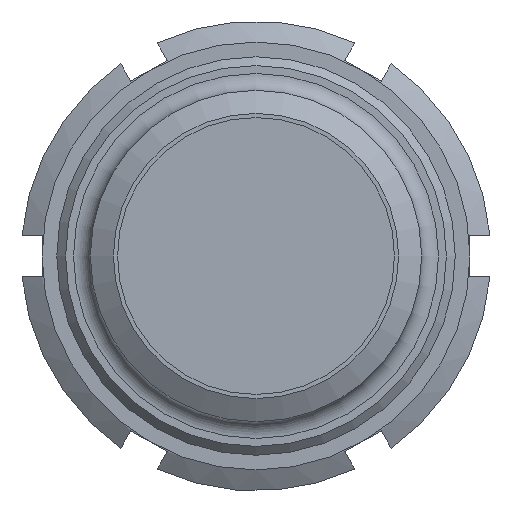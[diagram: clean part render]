
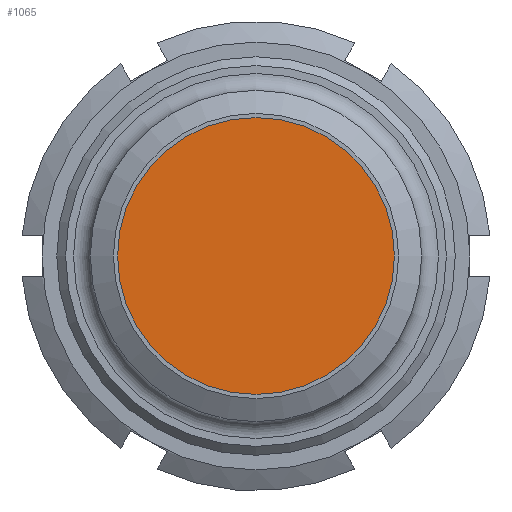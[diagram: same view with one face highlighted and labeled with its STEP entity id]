
A CAD part, left-side view. The second image highlights one B-rep face of the part: STEP entity #1065.
In plain terms, the highlighted planar face has unit normal (-1, 0, 0) as drawn and (0, -1, 0) by its records, which use the part's own axes.
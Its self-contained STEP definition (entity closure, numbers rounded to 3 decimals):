
#79=PLANE('',#1244);
#424=ORIENTED_EDGE('',*,*,#583,.T.);
#583=EDGE_CURVE('',#681,#681,#743,.F.);
#681=VERTEX_POINT('',#2114);
#743=CIRCLE('',#1245,39.);
#832=EDGE_LOOP('',(#424));
#946=FACE_BOUND('',#832,.T.);
#1065=ADVANCED_FACE('',(#946),#79,.F.);
#1244=AXIS2_PLACEMENT_3D('',#2112,#1507,#1508);
#1245=AXIS2_PLACEMENT_3D('',#2113,#1509,#1510);
#1507=DIRECTION('',(0.,1.,0.));
#1508=DIRECTION('',(0.,0.,1.));
#1509=DIRECTION('',(0.,1.,0.));
#1510=DIRECTION('',(0.,0.,1.));
#2112=CARTESIAN_POINT('',(0.,0.,0.));
#2113=CARTESIAN_POINT('',(0.,0.,0.));
#2114=CARTESIAN_POINT('',(0.,0.,39.));
